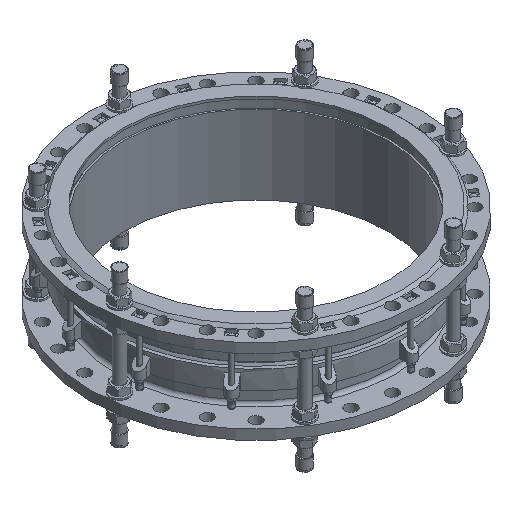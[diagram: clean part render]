
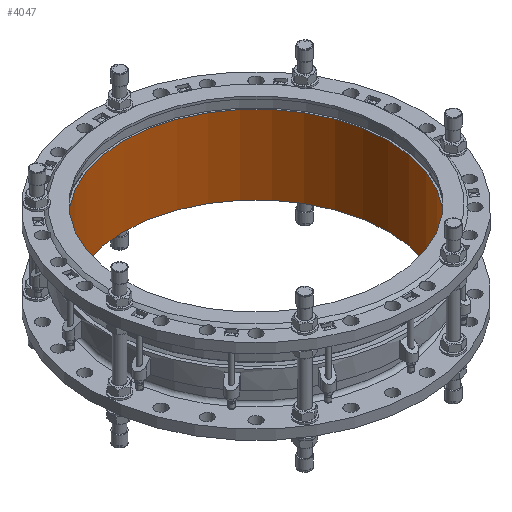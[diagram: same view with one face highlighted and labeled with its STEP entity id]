
A CAD part, isometric view. The second image highlights one B-rep face of the part: STEP entity #4047.
In plain terms, the highlighted cylindrical face has radius 500 mm (diameter 1000 mm), a full revolution.
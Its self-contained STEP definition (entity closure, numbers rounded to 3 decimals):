
#4047=ADVANCED_FACE('',(#4892,#4894),#4896,.F.);
#4892=FACE_OUTER_BOUND('',#4893,.T.);
#4893=EDGE_LOOP('',(#8656));
#4894=FACE_OUTER_BOUND('',#4895,.T.);
#4895=EDGE_LOOP('',(#8657));
#4896=CYLINDRICAL_SURFACE('',#4897,500.);
#4897=AXIS2_PLACEMENT_3D('',#4898,#4899,#4900);
#4898=CARTESIAN_POINT('',(0.,0.,0.));
#4899=DIRECTION('',(0.,0.,1.));
#4900=DIRECTION('',(-1.,0.,0.));
#8656=ORIENTED_EDGE('',*,*,#11311,.F.);
#8657=ORIENTED_EDGE('',*,*,#11312,.F.);
#11311=EDGE_CURVE('',#12554,#12554,#12555,.T.);
#11312=EDGE_CURVE('',#12556,#12556,#12557,.T.);
#12554=VERTEX_POINT('',#14693);
#12555=CIRCLE('',#14694,500.);
#12556=VERTEX_POINT('',#14698);
#12557=CIRCLE('',#14699,500.);
#14693=CARTESIAN_POINT('',(-500.,0.,297.));
#14694=AXIS2_PLACEMENT_3D('',#14695,#14696,#14697);
#14695=CARTESIAN_POINT('',(0.,0.,297.));
#14696=DIRECTION('',(0.,0.,-1.));
#14697=DIRECTION('',(-1.,0.,0.));
#14698=CARTESIAN_POINT('',(-500.,0.,0.));
#14699=AXIS2_PLACEMENT_3D('',#14700,#14701,#14702);
#14700=CARTESIAN_POINT('',(0.,0.,0.));
#14701=DIRECTION('',(0.,0.,1.));
#14702=DIRECTION('',(-1.,0.,0.));
